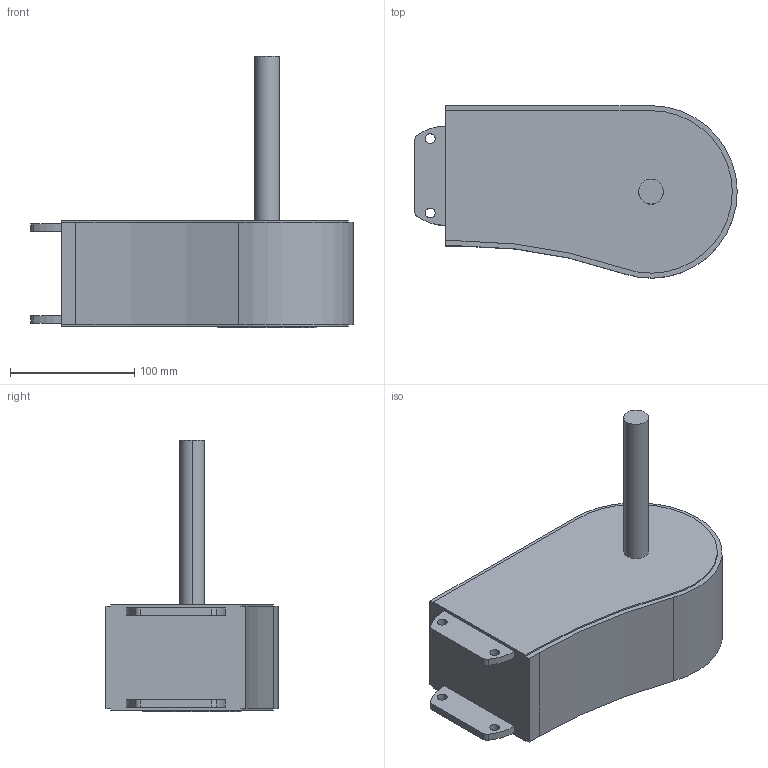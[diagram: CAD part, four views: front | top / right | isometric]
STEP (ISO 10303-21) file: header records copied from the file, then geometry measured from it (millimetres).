
FILE_DESCRIPTION (( 'STEP AP214' ), '1' );
FILE_NAME ('VC.85 Aandrijfsectie Z10 rechts.STEP', '2016-10-19T07:09:39', ( '' ), ( '' ), 'SwSTEP 2.0', 'SolidWorks 2016', '' );
FILE_SCHEMA (( 'AUTOMOTIVE_DESIGN' ));
Length unit declared in the file: millimetre
Products named in the file (1): VC.85 Aandrijfsectie Z10 rechts
Bounding box: 260 x 138.99 x 218.5 mm (x, y, z)
Volume: 2426348.5 mm3; surface area: 128760.2 mm2
Topology: 1 solids, 1 shells, 45 faces, 117 edges, 78 vertices
Faces by surface type: cylinder 26, plane 19
Entity records: 1453 total; most frequent: DIRECTION 261, CARTESIAN_POINT 241, ORIENTED_EDGE 234, EDGE_CURVE 117, AXIS2_PLACEMENT_3D 98, VERTEX_POINT 78, VECTOR 65, LINE 65
